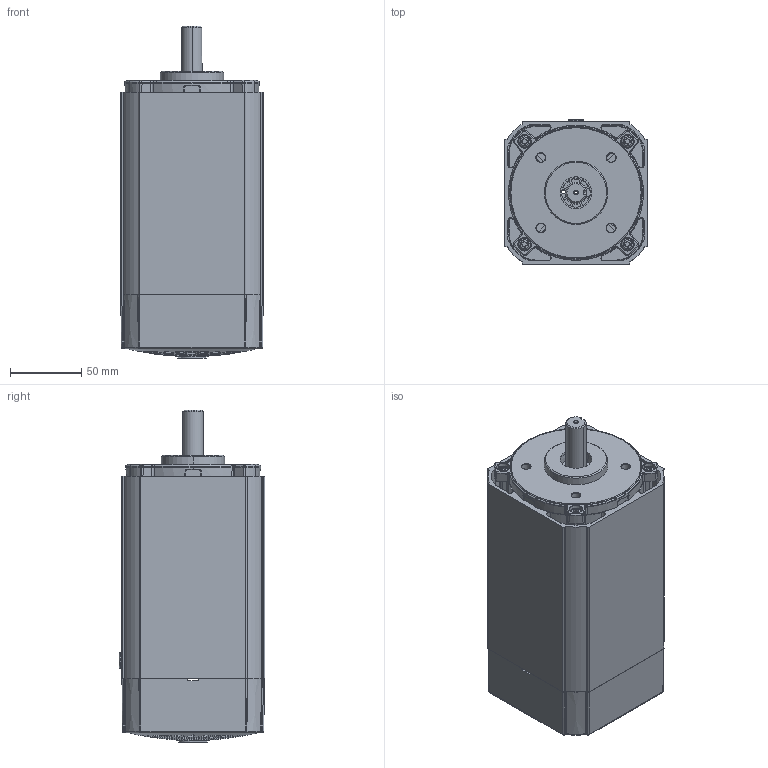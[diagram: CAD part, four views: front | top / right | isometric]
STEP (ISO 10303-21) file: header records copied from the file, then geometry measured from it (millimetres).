
FILE_DESCRIPTION (( 'STEP AP203' ), '1' );
FILE_NAME ('OUTLINE AC9060FC.STEP', '2007-10-30T17:49:55', ( 'eng-rjs2' ), ( 'groschopp' ), 'SwSTEP 2.0', 'SolidWorks 2008', '' );
FILE_SCHEMA (( 'CONFIG_CONTROL_DESIGN' ));
Length unit declared in the file: inch
Products named in the file (1): OUTLINE AC9060FC
Bounding box: 100.43 x 102.02 x 232.78 mm (x, y, z)
Surface area: 183597.8 mm2 (no closed solid volume)
Topology: 0 solids, 20 shells, 974 faces, 3038 edges, 2007 vertices
Faces by surface type: plane 527, cylinder 212, cone 101, torus 76, bspline 48, sphere 10
Entity records: 35368 total; most frequent: CARTESIAN_POINT 8069, DIRECTION 6291, ORIENTED_EDGE 5113, EDGE_CURVE 3030, AXIS2_PLACEMENT_3D 2539, VERTEX_POINT 2007, CIRCLE 1612, VECTOR 1213
